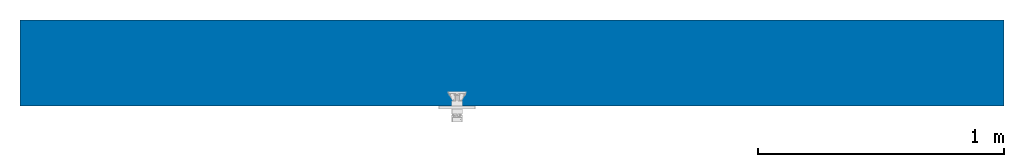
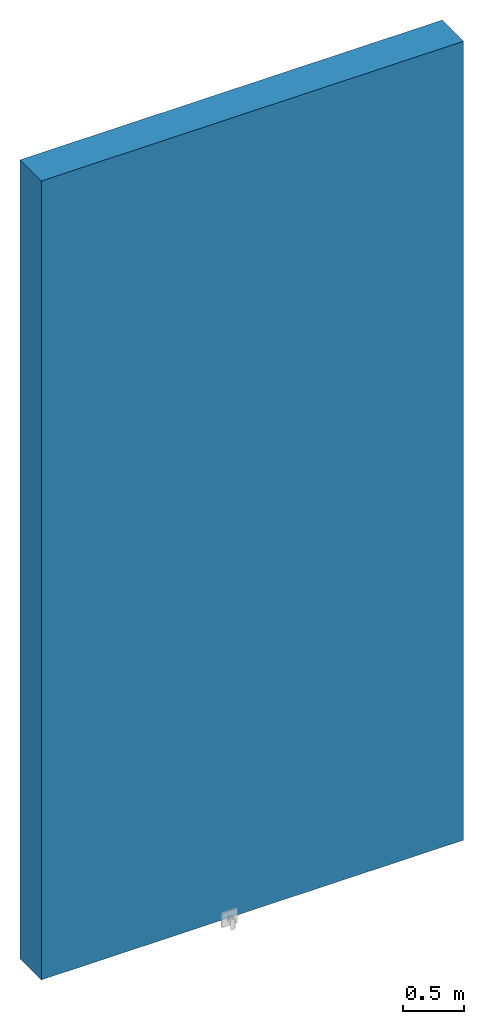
# One storey, incomplete: 1 wall.
"""IFC2X3 building model written with IfcOpenShell, lengths in millimetres."""

from ifc_helpers import new_model, entity, si_unit, converted_unit, derived_unit, direction, frame, frame_2d, origin, place, context, subcontext, project, spatial, rectangle, extrude, type_object, element, save


model = new_model("IFC2X3")

# Units and contexts
model_context = context("Model", 3, precision=0.01, world=origin(), true_north=direction((6.12303176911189e-17, 1.0)))
body_context = subcontext(model_context, "Body", "Model", "MODEL_VIEW")
ifc_project = project(units=[si_unit("LENGTHUNIT", "METRE", prefix="MILLI"), si_unit("AREAUNIT", "SQUARE_METRE"), si_unit("VOLUMEUNIT", "CUBIC_METRE"), converted_unit("PLANEANGLEUNIT", "DEGREE", entity("IfcRatioMeasure", 0.0174532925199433), si_unit("PLANEANGLEUNIT", "RADIAN"), dimensions=[0, 0, 0, 0, 0, 0, 0]), si_unit("MASSUNIT", "GRAM", prefix="KILO"), derived_unit("MASSDENSITYUNIT", [(si_unit("MASSUNIT", "GRAM", prefix="KILO"), 1), (si_unit("LENGTHUNIT", "METRE"), -3)]), derived_unit("MOMENTOFINERTIAUNIT", [(si_unit("LENGTHUNIT", "METRE"), 4)]), si_unit("TIMEUNIT", "SECOND"), si_unit("FREQUENCYUNIT", "HERTZ"), si_unit("THERMODYNAMICTEMPERATUREUNIT", "DEGREE_CELSIUS"), derived_unit("THERMALTRANSMITTANCEUNIT", [(si_unit("MASSUNIT", "GRAM", prefix="KILO"), 1), (si_unit("THERMODYNAMICTEMPERATUREUNIT", "KELVIN"), -1), (si_unit("TIMEUNIT", "SECOND"), -3)]), derived_unit("VOLUMETRICFLOWRATEUNIT", [(si_unit("LENGTHUNIT", "METRE"), 3), (si_unit("TIMEUNIT", "SECOND"), -1)]), si_unit("ELECTRICCURRENTUNIT", "AMPERE"), si_unit("ELECTRICVOLTAGEUNIT", "VOLT"), si_unit("POWERUNIT", "WATT"), si_unit("FORCEUNIT", "NEWTON", prefix="KILO"), si_unit("ILLUMINANCEUNIT", "LUX"), si_unit("LUMINOUSFLUXUNIT", "LUMEN"), si_unit("LUMINOUSINTENSITYUNIT", "CANDELA"), derived_unit("USERDEFINED", [(si_unit("MASSUNIT", "GRAM", prefix="KILO"), -1), (si_unit("LENGTHUNIT", "METRE"), -2), (si_unit("TIMEUNIT", "SECOND"), 3), (si_unit("LUMINOUSFLUXUNIT", "LUMEN"), 1)]), derived_unit("LINEARVELOCITYUNIT", [(si_unit("LENGTHUNIT", "METRE"), 1), (si_unit("TIMEUNIT", "SECOND"), -1)]), si_unit("PRESSUREUNIT", "PASCAL"), derived_unit("USERDEFINED", [(si_unit("LENGTHUNIT", "METRE"), -2), (si_unit("MASSUNIT", "GRAM", prefix="KILO"), 1), (si_unit("TIMEUNIT", "SECOND"), -2)]), derived_unit("LINEARFORCEUNIT", [(si_unit("MASSUNIT", "GRAM", prefix="KILO"), 1), (si_unit("LENGTHUNIT", "METRE"), 1), (si_unit("TIMEUNIT", "SECOND"), -2), (si_unit("LENGTHUNIT", "METRE"), -1)]), derived_unit("PLANARFORCEUNIT", [(si_unit("MASSUNIT", "GRAM", prefix="KILO"), 1), (si_unit("LENGTHUNIT", "METRE"), 1), (si_unit("TIMEUNIT", "SECOND"), -2), (si_unit("LENGTHUNIT", "METRE"), -2)])], contexts=[model_context])

# Site, building, storey
site_placement = place(None, origin())
site = spatial("IfcSite", under=ifc_project, at=site_placement, Name="Default", CompositionType="ELEMENT")
building_placement = place(site_placement, origin())
building = spatial("IfcBuilding", under=site, at=building_placement, CompositionType="ELEMENT")
storey_placement = place(building_placement, origin())
storey = spatial("IfcBuildingStorey", under=building, at=storey_placement, Name="Level 1", CompositionType="ELEMENT", Elevation=0.0)

# Wall
wall_type = type_object("IfcWallType", Name="Basic Wall:Exterior - Brick on Mtl. Stud", PredefinedType="STANDARD")
wall_placement = place(storey_placement, frame((-5173.40196157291, 1639.3184784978, 0.0)))
element("IfcWallStandardCase", 1, at=wall_placement, inside=storey, type_object=wall_type, Name="Basic Wall:Exterior - Brick on Mtl. Stud", ObjectType="Basic Wall:Exterior - Brick on Mtl. Stud", context=body_context, shape_type="SweptSolid", body=[
    extrude(rectangle(XDim=4000.0, YDim=350.0, at=frame_2d((2000.0, 0.0), x_axis=(-1.0, 0.0))), origin(), (0.0, 0.0, 1.0), 8000.0),
])

save(model, "model.ifc")
